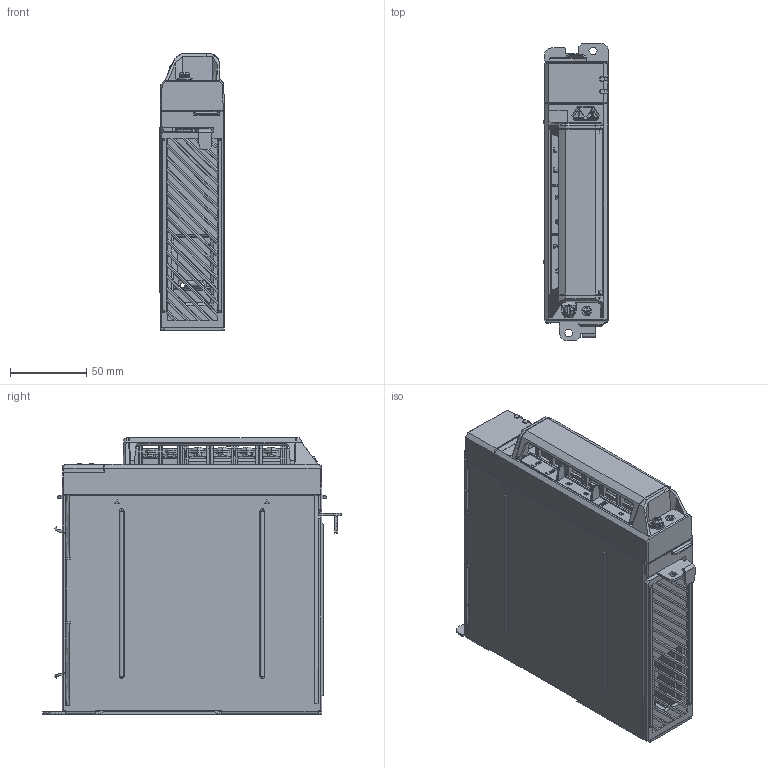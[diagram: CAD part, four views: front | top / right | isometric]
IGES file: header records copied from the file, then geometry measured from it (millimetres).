
Start section:  PTC IGES file: DELTA_IA-ASDA_W3-PM5021_FRAME-A_D-3D-IGS_20250908.igs
Global section: file name: DELTA_IA-ASDA_W3-PM5021_FRAME-A_D-3D-IGS_20250908.igs; native system: Creo Parametric by PTC Inc.; preprocessor: 2024014; author: SUMMERS.CHEN; organization: Unknown; date: 20250908.133701; units: millimetre
Bounding box: 42.59 x 195 x 181 mm (x, y, z)
Surface area: 238037.7 mm2 (no closed solid volume)
Topology: 0 solids, 0 shells, 3421 faces, 19748 edges, 19734 vertices
Faces by surface type: bspline 2367, revolution 863, extrusion 191
